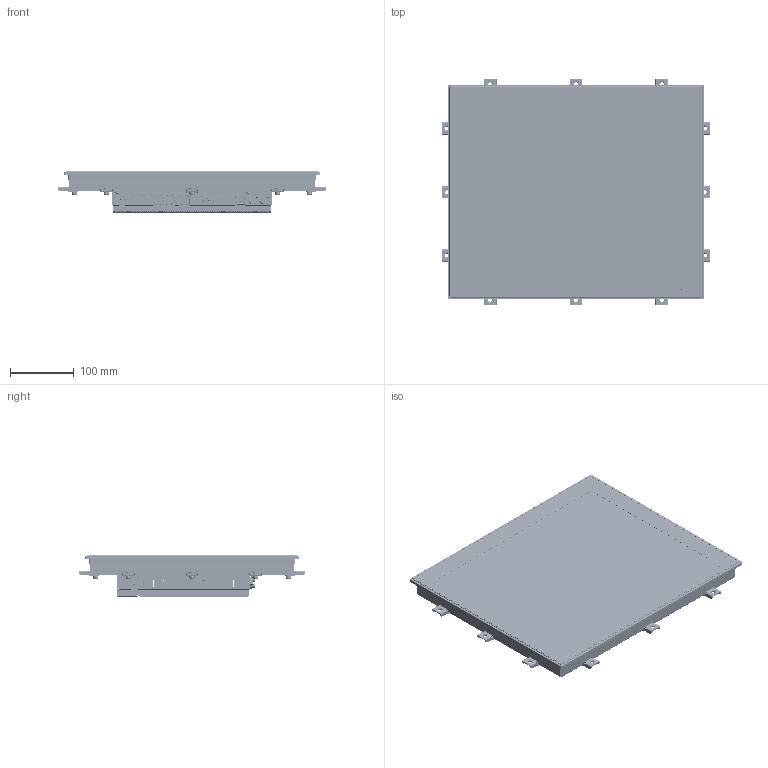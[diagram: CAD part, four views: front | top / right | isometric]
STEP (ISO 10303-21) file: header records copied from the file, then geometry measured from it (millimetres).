
FILE_DESCRIPTION((''),'2;1');
FILE_NAME('AP6A-170','2026-06-02T13:11:16',('gijyu181'),(''),'CREO PARAMETRIC BY PTC INC, 2018050','CREO PARAMETRIC BY PTC INC, 2018050','');
FILE_SCHEMA(('CONFIG_CONTROL_DESIGN','SHAPE_APPEARANCE_LAYERS_GROUPS'));
Products named in the file (1): AP6A-170
Bounding box: 422 x 356 x 64.87 mm (x, y, z)
Volume: 2072312.6 mm3; surface area: 1361528.5 mm2
Topology: 6 solids, 109 shells, 34069 faces, 99742 edges, 65883 vertices
Faces by surface type: plane 23521, cylinder 7883, extrusion 1524, cone 373, bspline 362, torus 293, sphere 113
Entity records: 1294574 total; most frequent: CARTESIAN_POINT 244862, ORIENTED_EDGE 198579, DIRECTION 177866, EDGE_CURVE 99686, VECTOR 79044, LINE 77520, VERTEX_POINT 65884, AXIS2_PLACEMENT_3D 49411
